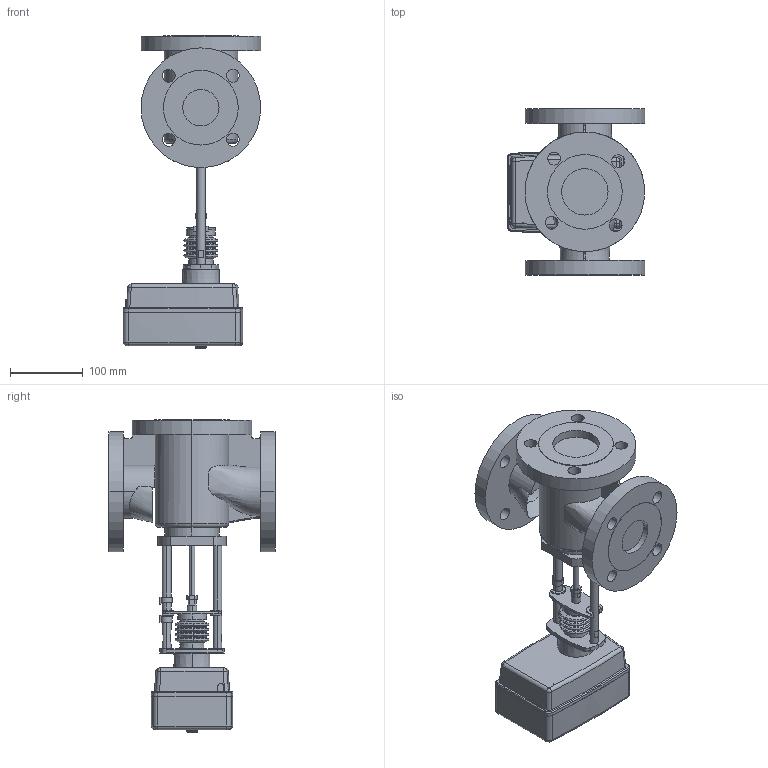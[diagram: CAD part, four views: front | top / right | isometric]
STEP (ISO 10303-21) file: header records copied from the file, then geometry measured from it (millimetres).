
FILE_DESCRIPTION (( 'STEP AP214' ), '1' );
FILE_NAME ('TRV-3-50-X-101.STEP', '2025-12-12T05:25:32', ( '' ), ( '' ), 'SwSTEP 2.0', 'SolidWorks 2023', '' );
FILE_SCHEMA (( 'AUTOMOTIVE_DESIGN' ));
Length unit declared in the file: millimetre
Products named in the file (1): TRV-3-50-X-101
Bounding box: 189.46 x 230 x 431.4 mm (x, y, z)
Volume: 4402334.8 mm3; surface area: 353577.2 mm2
Topology: 1 solids, 1 shells, 417 faces, 1040 edges, 651 vertices
Faces by surface type: plane 175, cylinder 134, torus 60, cone 34, bspline 10, sphere 4
Entity records: 20099 total; most frequent: CARTESIAN_POINT 9877, DIRECTION 2254, ORIENTED_EDGE 2080, EDGE_CURVE 1040, AXIS2_PLACEMENT_3D 888, VERTEX_POINT 651, CIRCLE 480, LINE 478
